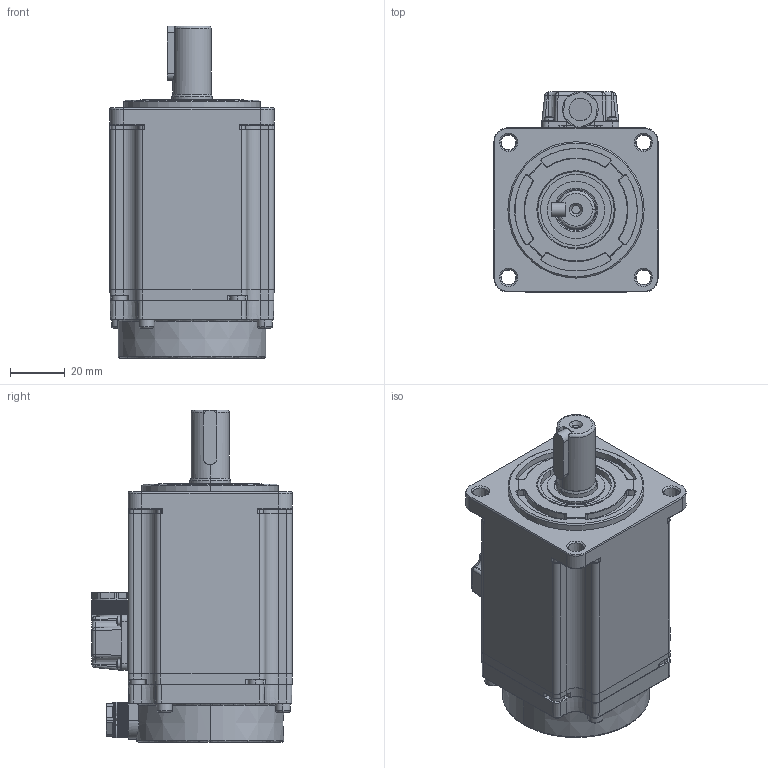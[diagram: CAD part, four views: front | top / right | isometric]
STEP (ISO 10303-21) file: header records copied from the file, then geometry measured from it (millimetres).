
FILE_DESCRIPTION (( 'STEP AP203' ), '1' );
FILE_NAME ('G3系列60ST-400W标准电机三维图.STEP', '2023-09-27T05:25:56', ( '微软用户' ), ( '微软中国' ), 'SwSTEP 2.0', 'SolidWorks 2016', '' );
FILE_SCHEMA (( 'CONFIG_CONTROL_DESIGN' ));
Products named in the file (1): G3系列60ST-400W标准电机三维图
Bounding box: 60.2 x 73.5 x 121.8 mm (x, y, z)
Volume: 114359.9 mm3; surface area: 77725.5 mm2
Topology: 21 solids, 21 shells, 2856 faces, 7011 edges, 4277 vertices
Faces by surface type: plane 1601, cylinder 548, cone 445, bspline 163, torus 83, sphere 16
Entity records: 87407 total; most frequent: CARTESIAN_POINT 20375, DIRECTION 14118, ORIENTED_EDGE 13990, EDGE_CURVE 6995, AXIS2_PLACEMENT_3D 5015, VERTEX_POINT 4277, LINE 4088, VECTOR 4088
